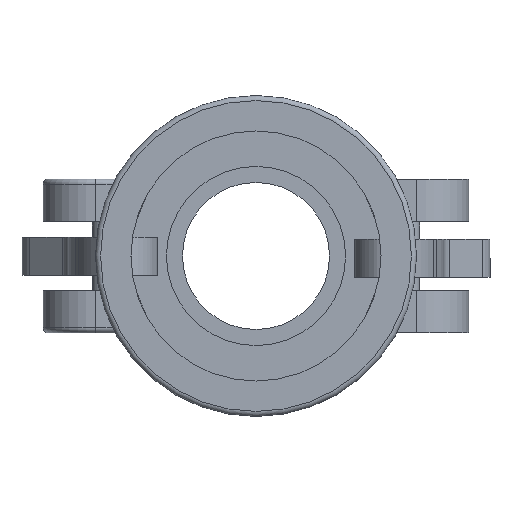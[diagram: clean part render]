
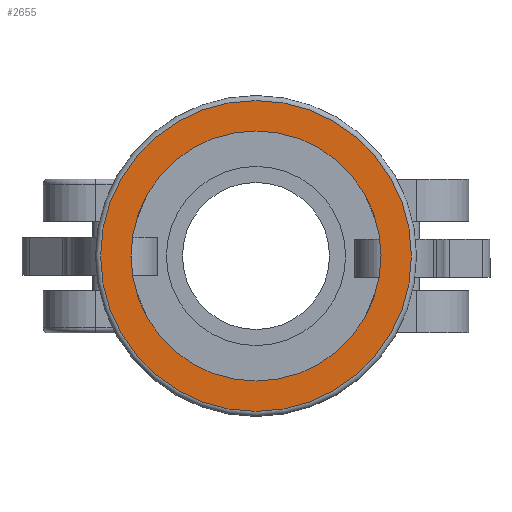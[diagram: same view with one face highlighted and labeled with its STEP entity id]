
A CAD part, left-side view. The second image highlights one B-rep face of the part: STEP entity #2655.
In plain terms, the highlighted planar face has unit normal (-1, 0, 0) as drawn and (1, 0, 0) by its records, which use the part's own axes.
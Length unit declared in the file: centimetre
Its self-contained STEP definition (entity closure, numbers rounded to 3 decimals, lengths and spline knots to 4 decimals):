
#915=PLANE('',#2833);
#1029=VERTEX_POINT('',#13314);
#1099=VERTEX_POINT('',#13822);
#1220=CIRCLE('',#2786,1.8796);
#1249=CIRCLE('',#2832,2.3368);
#1355=EDGE_CURVE('',#1029,#1029,#1220,.T.);
#1445=EDGE_CURVE('',#1099,#1099,#1249,.T.);
#1827=ORIENTED_EDGE('',*,*,#1355,.T.);
#1828=ORIENTED_EDGE('',*,*,#1445,.F.);
#2301=EDGE_LOOP('',(#1827));
#2302=EDGE_LOOP('',(#1828));
#2494=FACE_BOUND('',#2301,.T.);
#2495=FACE_BOUND('',#2302,.T.);
#2655=ADVANCED_FACE('',(#2494,#2495),#915,.T.);
#2786=AXIS2_PLACEMENT_3D('',#13313,#3046,#3047);
#2832=AXIS2_PLACEMENT_3D('',#13821,#3156,#3157);
#2833=AXIS2_PLACEMENT_3D('',#13823,#3158,$);
#3046=DIRECTION('',(-1.,0.,0.));
#3047=DIRECTION('',(0.,0.,-1.88));
#3156=DIRECTION('',(-1.,0.,0.));
#3157=DIRECTION('',(0.,0.,2.337));
#3158=DIRECTION('',(1.,0.,0.));
#13313=CARTESIAN_POINT('',(0.,0.,0.));
#13314=CARTESIAN_POINT('',(0.,0.,-1.8796));
#13821=CARTESIAN_POINT('',(0.,0.,0.));
#13822=CARTESIAN_POINT('',(0.,0.,-2.3368));
#13823=CARTESIAN_POINT('',(0.,0.,0.));
